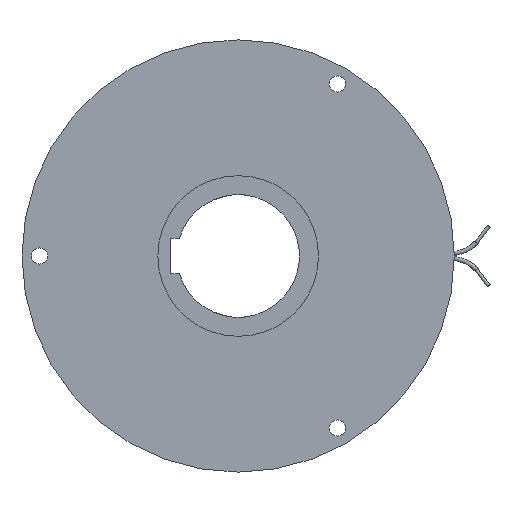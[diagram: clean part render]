
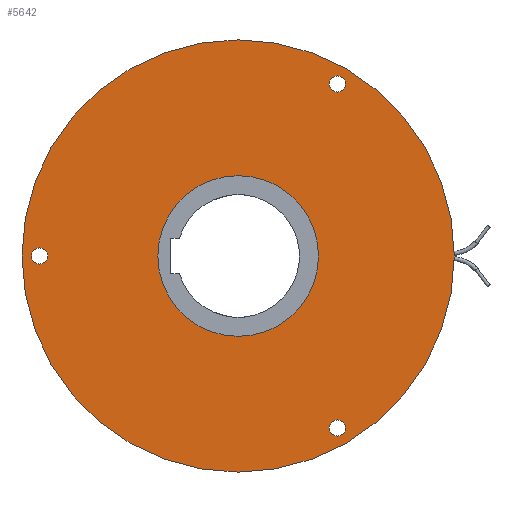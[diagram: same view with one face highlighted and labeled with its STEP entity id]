
A CAD part, left-side view. The second image highlights one B-rep face of the part: STEP entity #5642.
In plain terms, the highlighted planar face has unit normal (-1, 0, 0).
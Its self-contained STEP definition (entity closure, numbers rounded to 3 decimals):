
#113=FACE_BOUND('',#863,.T.);
#114=FACE_BOUND('',#864,.T.);
#115=FACE_BOUND('',#865,.T.);
#116=FACE_BOUND('',#866,.T.);
#210=PLANE('',#6478);
#509=FACE_OUTER_BOUND('',#862,.T.);
#862=EDGE_LOOP('',(#4811,#4812));
#863=EDGE_LOOP('',(#4813));
#864=EDGE_LOOP('',(#4814));
#865=EDGE_LOOP('',(#4815));
#866=EDGE_LOOP('',(#4816,#4817));
#1851=CIRCLE('',#6416,27.5);
#1852=CIRCLE('',#6417,27.5);
#1853=CIRCLE('',#6419,74.);
#1854=CIRCLE('',#6420,74.);
#1895=CIRCLE('',#6468,2.75);
#1896=CIRCLE('',#6470,2.75);
#1897=CIRCLE('',#6472,2.75);
#2423=VERTEX_POINT('',#10256);
#2424=VERTEX_POINT('',#10257);
#2425=VERTEX_POINT('',#10262);
#2426=VERTEX_POINT('',#10263);
#2456=VERTEX_POINT('',#10415);
#2457=VERTEX_POINT('',#10419);
#2458=VERTEX_POINT('',#10423);
#3204=EDGE_CURVE('',#2423,#2424,#1851,.T.);
#3206=EDGE_CURVE('',#2424,#2423,#1852,.T.);
#3207=EDGE_CURVE('',#2425,#2426,#1853,.T.);
#3208=EDGE_CURVE('',#2426,#2425,#1854,.T.);
#3264=EDGE_CURVE('',#2456,#2456,#1895,.T.);
#3266=EDGE_CURVE('',#2457,#2457,#1896,.T.);
#3268=EDGE_CURVE('',#2458,#2458,#1897,.T.);
#4811=ORIENTED_EDGE('',*,*,#3207,.T.);
#4812=ORIENTED_EDGE('',*,*,#3208,.T.);
#4813=ORIENTED_EDGE('',*,*,#3268,.T.);
#4814=ORIENTED_EDGE('',*,*,#3266,.T.);
#4815=ORIENTED_EDGE('',*,*,#3264,.T.);
#4816=ORIENTED_EDGE('',*,*,#3204,.F.);
#4817=ORIENTED_EDGE('',*,*,#3206,.F.);
#5642=ADVANCED_FACE('',(#509,#113,#114,#115,#116),#210,.T.);
#6416=AXIS2_PLACEMENT_3D('',#10258,#8184,#8185);
#6417=AXIS2_PLACEMENT_3D('',#10260,#8187,#8188);
#6419=AXIS2_PLACEMENT_3D('',#10264,#8191,#8192);
#6420=AXIS2_PLACEMENT_3D('',#10265,#8193,#8194);
#6468=AXIS2_PLACEMENT_3D('',#10417,#8300,#8301);
#6470=AXIS2_PLACEMENT_3D('',#10421,#8305,#8306);
#6472=AXIS2_PLACEMENT_3D('',#10425,#8310,#8311);
#6478=AXIS2_PLACEMENT_3D('',#10435,#8324,#8325);
#8184=DIRECTION('center_axis',(-1.,0.,0.));
#8185=DIRECTION('ref_axis',(0.,1.,0.));
#8187=DIRECTION('center_axis',(-1.,0.,0.));
#8188=DIRECTION('ref_axis',(0.,1.,0.));
#8191=DIRECTION('center_axis',(-1.,0.,0.));
#8192=DIRECTION('ref_axis',(0.,1.,0.));
#8193=DIRECTION('center_axis',(-1.,0.,0.));
#8194=DIRECTION('ref_axis',(0.,1.,0.));
#8300=DIRECTION('center_axis',(1.,0.,0.));
#8301=DIRECTION('ref_axis',(0.,0.,
-1.));
#8305=DIRECTION('center_axis',(1.,0.,0.));
#8306=DIRECTION('ref_axis',(0.,0.,
-1.));
#8310=DIRECTION('center_axis',(1.,0.,0.));
#8311=DIRECTION('ref_axis',(0.,0.,
-1.));
#8324=DIRECTION('center_axis',(-1.,0.,0.));
#8325=DIRECTION('ref_axis',(0.,0.,
1.));
#10256=CARTESIAN_POINT('',(-35.75,27.5,0.));
#10257=CARTESIAN_POINT('',(-35.75,-27.5,0.));
#10258=CARTESIAN_POINT('Origin',(-35.75,0.,0.));
#10260=CARTESIAN_POINT('Origin',(-35.75,0.,0.));
#10262=CARTESIAN_POINT('',(-35.75,74.,0.));
#10263=CARTESIAN_POINT('',(-35.75,-74.,0.));
#10264=CARTESIAN_POINT('Origin',(-35.75,0.,0.));
#10265=CARTESIAN_POINT('Origin',(-35.75,0.,0.));
#10415=CARTESIAN_POINT('',(-35.75,-34.,-56.14));
#10417=CARTESIAN_POINT('Origin',(-35.75,-34.,-58.89));
#10419=CARTESIAN_POINT('',(-35.75,68.,2.75));
#10421=CARTESIAN_POINT('Origin',(-35.75,68.,0.));
#10423=CARTESIAN_POINT('',(-35.75,-34.,61.64));
#10425=CARTESIAN_POINT('Origin',(-35.75,-34.,58.89));
#10435=CARTESIAN_POINT('Origin',(-35.75,50.75,0.));
